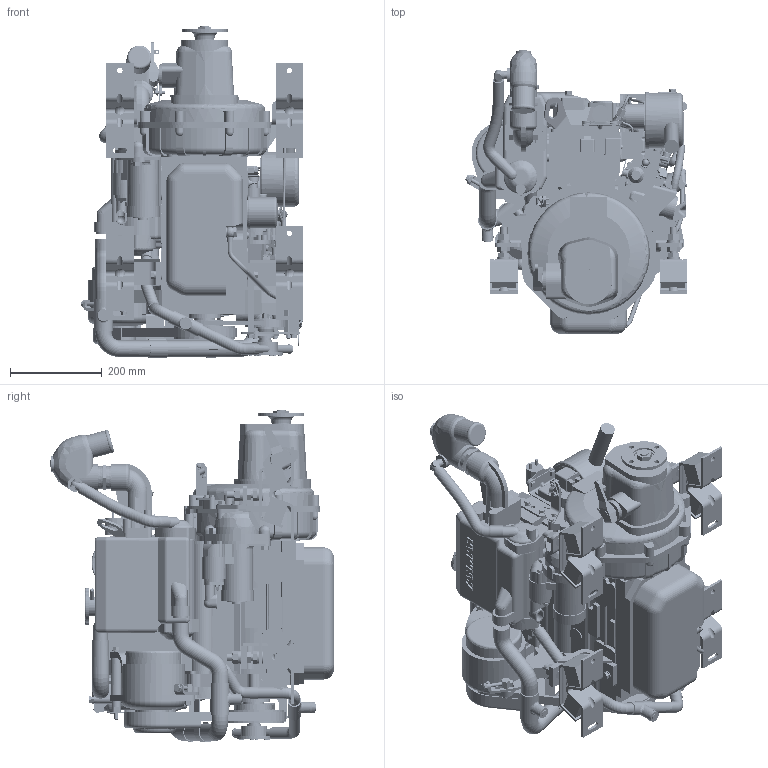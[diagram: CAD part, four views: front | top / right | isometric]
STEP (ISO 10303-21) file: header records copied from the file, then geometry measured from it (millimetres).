
FILE_DESCRIPTION((''),'2;1');
FILE_NAME('PUB-3YM30AE_ASM','2014-01-15T',('yy622744'),('YANMAR CO., LTD.'),'PRO/ENGINEER BY PARAMETRIC TECHNOLOGY CORPORATION, 2010430','PRO/ENGINEER BY PARAMETRIC TECHNOLOGY CORPORATION, 2010430','');
FILE_SCHEMA(('CONFIG_CONTROL_DESIGN'));
Products named in the file (51): D19E10-01100-3YM30AE-SW01-L; D19734-01200-3YM30AE-SW01-L; D28990-01300-3YM30AE-SW01-L; D19600-01320-3YM30AE-SW01-L; D28990-01400-3YM30AE-SW01-L; D28990-07350-3YM30AE-SW01-L; D28995-08100-SW01-L; D28377-08500-3YM30E-01-SW01-L; D19E10-11110-3YM30AE-SW01-L; D19717-11300-3YM30AE-SW01-L; D28990-12300-3YM30AE-SW01-L; D28990-13210-3YM30E-SW01-L; D28995-21200-SW01-L; D28995-21600-01-SW01-L; D28995-21600-02-SW01-L; D28990-34100-3YM30AE-SW01-L; D28990-34200-3YM27A-SW01-L; D19624-35100-3YM30AE-SW01-L; D19600-39100-3YM30AE-SW01-L; D19717-39100-3YM30AE-SW01-L; D19717-42100-3YM30AE-SW01-L; D28990-42210-3YM30AE-SW01-L; D28995-42500-SW01-L; D28990-44100-3YM30AE-SW01-L; D28990-49110-3YM30AE-SW01-L; D28990-49200-3YM30AE-SW01-L; D28990-49600-3YM30AE-SW01-L; D28990-49900-3YM27A-SW01-L; D28995-51350-SW01-L; D19C10-53100-3YM30AE-SW01-L; D28990-59300-3YM30AE-SW01-L; D28990-55110-3YM30AE-SW01-L; D19E10-59100-3YM30AE-SW01-L; D28990-59200-3YM30AE-SW01-L; D28990-55100-3YM30E-SW01-L; D19285-66400-3YM30AE-SW01-L; D28990-67100-3YM30AE-01-SW01-L; D28990-67100-3YM30AE-02-SW01-L; D28990-77210-3YM30AE-SW01; D28990-77250-3YM30AE-SW01-L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
Assembly tree (50 placements, depth 3):
  PUB-3YM30AE_ASM
    B2-28995-001X-L_ASM
      D19E10-01100-3YM30AE-SW01-L
      D19734-01200-3YM30AE-SW01-L
      D28990-01300-3YM30AE-SW01-L
      D19600-01320-3YM30AE-SW01-L
      D28990-01400-3YM30AE-SW01-L
      D28990-07350-3YM30AE-SW01-L
      D28995-08100-SW01-L
      D28377-08500-3YM30E-01-SW01-L
      D19E10-11110-3YM30AE-SW01-L
      D19717-11300-3YM30AE-SW01-L
      D28990-12300-3YM30AE-SW01-L
      D28990-13210-3YM30E-SW01-L
      D28995-21200-SW01-L
      D28995-21600-01-SW01-L
      D28995-21600-02-SW01-L
      D28990-34100-3YM30AE-SW01-L
      D28990-34200-3YM27A-SW01-L
      D19624-35100-3YM30AE-SW01-L
      D19600-39100-3YM30AE-SW01-L
      D19717-39100-3YM30AE-SW01-L
      D19717-42100-3YM30AE-SW01-L
      D28990-42210-3YM30AE-SW01-L
      D28995-42500-SW01-L
      D28990-44100-3YM30AE-SW01-L
      D28990-49110-3YM30AE-SW01-L
      D28990-49200-3YM30AE-SW01-L
      D28990-49600-3YM30AE-SW01-L
      D28990-49900-3YM27A-SW01-L
      D28995-51350-SW01-L
      D19C10-53100-3YM30AE-SW01-L
      D28990-59300-3YM30AE-SW01-L
      D28990-55110-3YM30AE-SW01-L
      D19E10-59100-3YM30AE-SW01-L
      D28990-59200-3YM30AE-SW01-L
      D28990-55100-3YM30E-SW01-L
      D19285-66400-3YM30AE-SW01-L
      D28990-67100-3YM30AE-01-SW01-L
      D28990-67100-3YM30AE-02-SW01-L
      D28990-77210-3YM30AE-SW01
      D28990-77250-3YM30AE-SW01-L
      D28990-77350-3YM30AE-SW01-L
      D28990-77450-3YM30AE-SW01-L
      D28990-77500-3YM30AE-SW01-L
      D29271-77110-3YM30AE-SW01-L
      D29670-77120-3YM30AE-SW01-L
      D28377-91280-3YM30AE-SW01-L
    B2-28995-002X-L_ASM
      KM2P1-3YM30AE-01-SW01-L
      D28990-86100-3YM30AE-SW01
Bounding box: 485 x 619.11 x 724.6 mm (x, y, z)
Volume: 52908717.4 mm3; surface area: 4076934.4 mm2
Topology: 74 solids, 87 shells, 8283 faces, 21055 edges, 13336 vertices
Faces by surface type: plane 3847, cylinder 2993, cone 618, torus 468, bspline 199, sphere 153, extrusion 5
Entity records: 279978 total; most frequent: CARTESIAN_POINT 77620, DIRECTION 42932, ORIENTED_EDGE 41858, EDGE_CURVE 20929, AXIS2_PLACEMENT_3D 15857, VERTEX_POINT 13335, VECTOR 11218, LINE 11213
